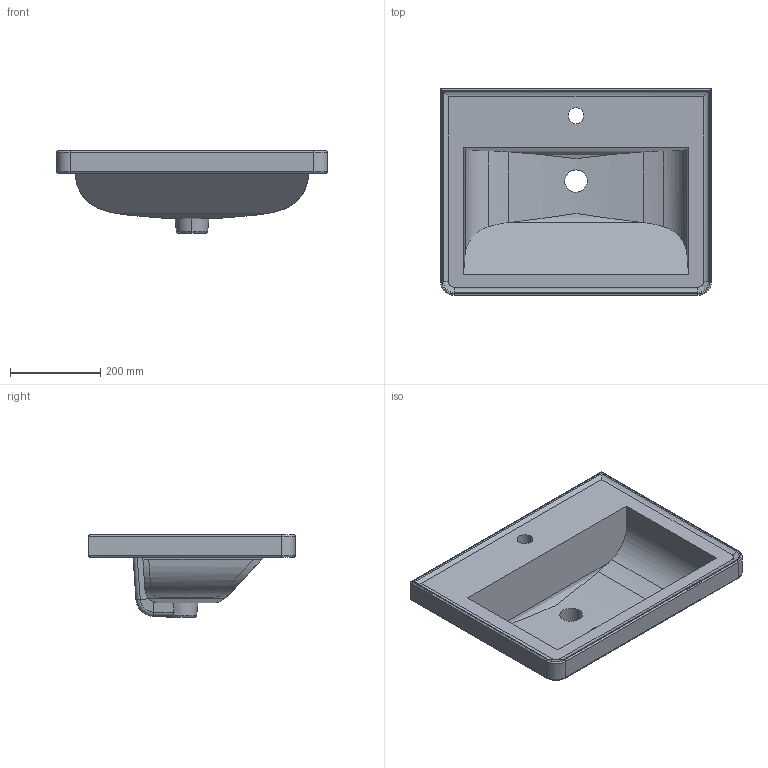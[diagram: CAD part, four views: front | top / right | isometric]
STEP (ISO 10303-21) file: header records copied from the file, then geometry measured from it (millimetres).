
FILE_DESCRIPTION(('FreeCAD Model'),'2;1');
FILE_NAME('Open CASCADE Shape Model','2024-11-19T16:03:30',('Author'),( ''),'Open CASCADE STEP processor 7.6','FreeCAD','Unknown');
FILE_SCHEMA(('AUTOMOTIVE_DESIGN { 1 0 10303 214 1 1 1 1 }'));
Length unit declared in the file: millimetre
Products named in the file (2): TopLevelAssembly; Połączona geometria bryłowa
Assembly tree (1 placements, depth 2):
  TopLevelAssembly
    Połączona geometria bryłowa
Bounding box: 601.84 x 458.92 x 183.07 mm (x, y, z)
Volume: 9407248.1 mm3; surface area: 891955.9 mm2
Topology: 1 solids, 1 shells, 91 faces, 239 edges, 152 vertices
Faces by surface type: cylinder 48, plane 27, bspline 16
Entity records: 3798 total; most frequent: CARTESIAN_POINT 1573, ORIENTED_EDGE 478, DIRECTION 439, EDGE_CURVE 239, AXIS2_PLACEMENT_3D 161, VERTEX_POINT 152, LINE 117, VECTOR 117
